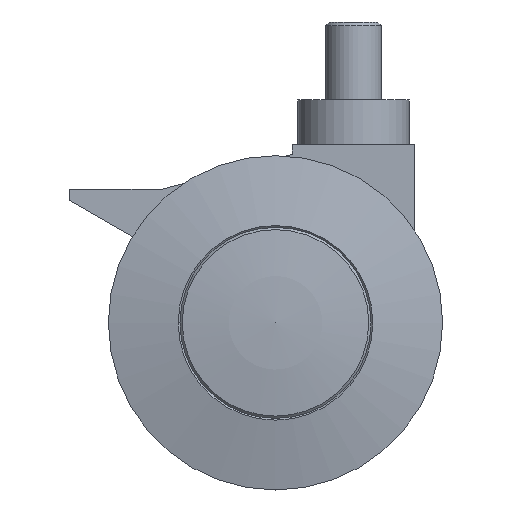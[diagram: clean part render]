
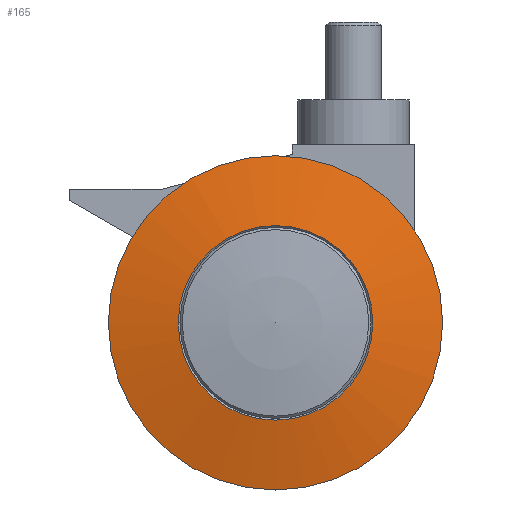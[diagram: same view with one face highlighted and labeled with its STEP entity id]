
A CAD part, front view. The second image highlights one B-rep face of the part: STEP entity #165.
In plain terms, the highlighted spherical face has radius 114.5 mm.
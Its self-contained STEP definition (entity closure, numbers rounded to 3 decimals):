
#165=ADVANCED_FACE('',(#289,#290),#291,.T.);
#289=FACE_OUTER_BOUND('',#418,.T.);
#290=FACE_OUTER_BOUND('',#419,.T.);
#291=SPHERICAL_SURFACE('',#420,114.5);
#418=EDGE_LOOP('',(#553));
#419=EDGE_LOOP('',(#554));
#420=AXIS2_PLACEMENT_3D('',#555,#556,#557);
#553=ORIENTED_EDGE('',*,*,#759,.F.);
#554=ORIENTED_EDGE('',*,*,#760,.T.);
#555=CARTESIAN_POINT('',(124.485,-590.988,76.744));
#556=DIRECTION('',(0.0,1.0,0.));
#557=DIRECTION('',(1.0,0.0,0.0));
#759=EDGE_CURVE('',#851,#851,#852,.T.);
#760=EDGE_CURVE('',#853,#853,#854,.T.);
#851=VERTEX_POINT('',#975);
#852=CIRCLE('',#976,17.462);
#853=VERTEX_POINT('',#977);
#854=CIRCLE('',#978,30.);
#975=CARTESIAN_POINT('',(124.485,-704.148,59.282));
#976=AXIS2_PLACEMENT_3D('',#1098,#1099,#1100);
#977=CARTESIAN_POINT('',(124.485,-701.488,46.744));
#978=AXIS2_PLACEMENT_3D('',#1101,#1102,#1103);
#1098=CARTESIAN_POINT('',(124.485,-704.148,76.744));
#1099=DIRECTION('',(0.0,-1.0,0.));
#1100=DIRECTION('',(0.0,0.,-1.0));
#1101=CARTESIAN_POINT('',(124.485,-701.488,76.744));
#1102=DIRECTION('',(0.0,-1.0,0.));
#1103=DIRECTION('',(0.0,0.,-1.0));
